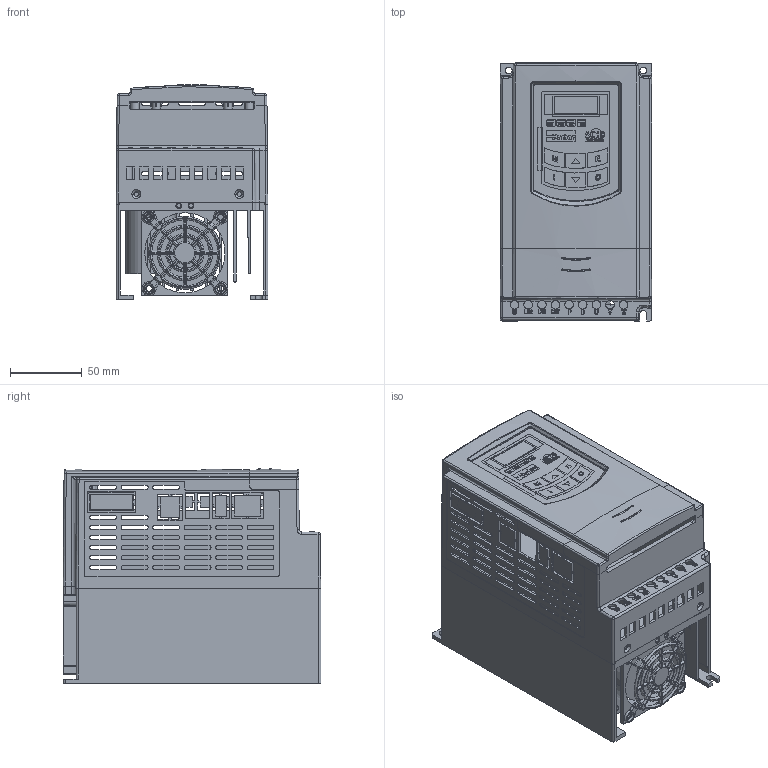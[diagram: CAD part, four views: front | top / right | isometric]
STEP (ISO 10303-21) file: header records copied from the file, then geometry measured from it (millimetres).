
FILE_DESCRIPTION((''),'2;1');
FILE_NAME('E2-ZHUANGPEITI_ASM','2015-09-06T',('Administrator'),(''),'PRO/ENGINEER BY PARAMETRIC TECHNOLOGY CORPORATION, 2013150','PRO/ENGINEER BY PARAMETRIC TECHNOLOGY CORPORATION, 2013150','');
FILE_SCHEMA(('CONFIG_CONTROL_DESIGN'));
Products named in the file (8): DIZUO; DIANRONGBAN-3GE; SHANGGAI_; XIAOGAI; MIANMOE2; 6025; FENGSHANZHAO; E2-ZHUANGPEITI_ASM
Assembly tree (7 placements, depth 2):
  E2-ZHUANGPEITI_ASM
    DIZUO
    DIANRONGBAN-3GE
    SHANGGAI_
    XIAOGAI
    MIANMOE2
    6025
    FENGSHANZHAO
Bounding box: 106 x 180.17 x 150 mm (x, y, z)
Volume: 529084.9 mm3; surface area: 384622.4 mm2
Topology: 8 solids, 28 shells, 2367 faces, 6568 edges, 4314 vertices
Faces by surface type: plane 1403, cylinder 598, bspline 148, extrusion 101, torus 82, cone 22, sphere 13
Entity records: 100471 total; most frequent: CARTESIAN_POINT 28742, ORIENTED_EDGE 12960, DIRECTION 10515, EDGE_CURVE 6562, VECTOR 4623, LINE 4522, VERTEX_POINT 4314, PRESENTATION_STYLE_ASSIGNMENT 4179
